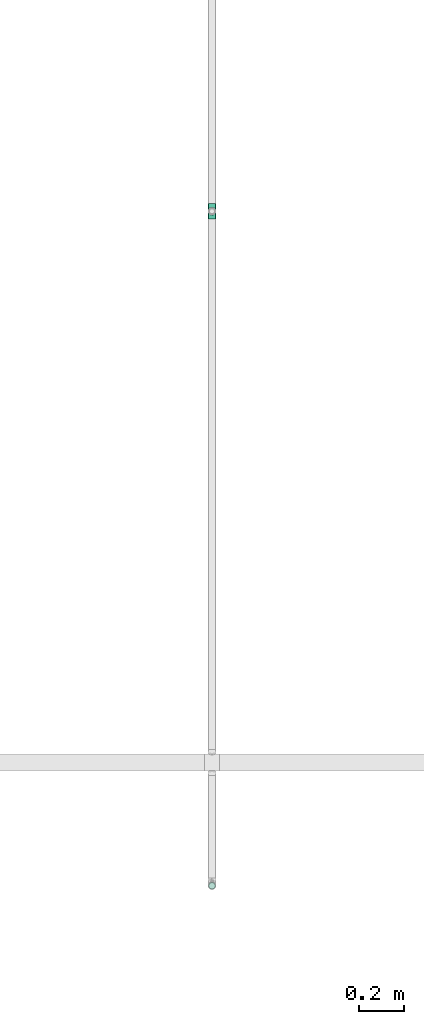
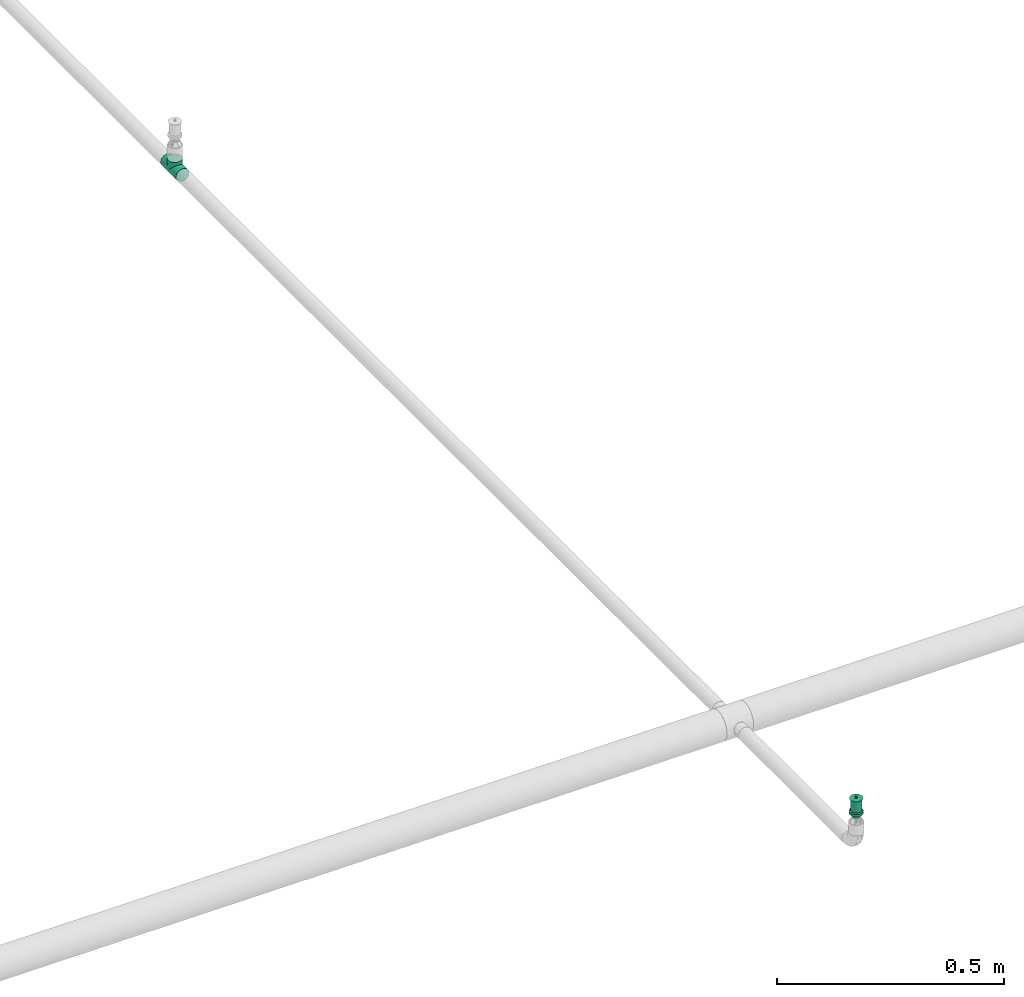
# One storey, part 25 of 31: 1 flow fitting, 1 flow terminal.
"""IFC2X3 building model written with IfcOpenShell, lengths in millimetres."""

import ifcopenshell
import ifcopenshell.guid

model = None  # the IFC model being written
_history = None  # IfcOwnerHistory: only IFC2X3 demands one
_inside = {}  # id of a spatial element -> (the spatial element, [elements in it])
_under = {}  # id of a project, library or spatial element -> (it, [spatial elements below it])
_declared = {}  # id of a project -> (the project, [libraries it declares])
_typed = {}  # id of a type object -> (the type object, [elements of that type])
_made_of = {}  # id of a material, layer set ... -> (it, [elements and type objects made of it])


def new_model(schema):
    """Start an empty IFC model of exactly this schema.

    Asked for "IFC4X3", IfcOpenShell would pick the latest addendum, in which some entities
    have other attributes; the version numbers below select the first issue.
    IFC2X3 requires an IfcOwnerHistory on every rooted entity: one is made here for all.
    """
    global model, _history
    if schema == "IFC4X3":
        model = ifcopenshell.file(schema_version=(4, 3, 0, 0))
    else:
        model = ifcopenshell.file(schema=schema)
    _inside.clear()
    _under.clear()
    _declared.clear()
    _typed.clear()
    _made_of.clear()
    _history = None
    if model.schema == "IFC2X3":
        org = make("IfcOrganization", Name="unknown")
        user = make(
            "IfcPersonAndOrganization",
            ThePerson=make("IfcPerson", FamilyName="unknown"),
            TheOrganization=org,
        )
        app = make(
            "IfcApplication",
            ApplicationDeveloper=org,
            Version="unknown",
            ApplicationFullName="unknown",
            ApplicationIdentifier="unknown",
        )
        _history = make(
            "IfcOwnerHistory",
            OwningUser=user,
            OwningApplication=app,
            ChangeAction="ADDED",
            CreationDate=0,
        )
    return model


def make(cls, **values):
    """One entity of the class cls with the attributes given. An attribute that is None is left unset."""
    return model.create_entity(
        cls, **{name: value for name, value in values.items() if value is not None}
    )


def entity(cls, *values):
    """Any entity or typed value of the class cls, its attributes in the order of the schema. None: left unset."""
    e = model.create_entity(cls)
    for i, value in enumerate(values):
        if value is not None:
            e[i] = value
    return e


def rooted(cls, **values):
    """An entity with a GlobalId (a new one), such as an element, a storey or a relation."""
    return make(cls, GlobalId=ifcopenshell.guid.new(), OwnerHistory=_history, **values)


def si_unit(unit_type, name, prefix=None):
    """IfcSIUnit, for example si_unit("LENGTHUNIT", "METRE", prefix="MILLI")."""
    return make("IfcSIUnit", UnitType=unit_type, Prefix=prefix, Name=name)


def converted_unit(unit_type, name, factor, base, dimensions=None, offset=None):
    """IfcConversionBasedUnit, such as the inch: factor (a typed value) times the base unit."""
    return make(
        "IfcConversionBasedUnit"
        if offset is None
        else "IfcConversionBasedUnitWithOffset",
        ConversionOffset=offset,
        Dimensions=None
        if dimensions is None
        else entity("IfcDimensionalExponents", *dimensions),
        UnitType=unit_type,
        Name=name,
        ConversionFactor=make(
            "IfcMeasureWithUnit", ValueComponent=factor, UnitComponent=base
        ),
    )


def derived_unit(unit_type, elements):
    """IfcDerivedUnit: a product of units, each with its exponent."""
    return make(
        "IfcDerivedUnit",
        Elements=[
            make("IfcDerivedUnitElement", Unit=unit, Exponent=power)
            for unit, power in elements
        ],
        UnitType=unit_type,
    )


def assignment(units):
    """IfcUnitAssignment: the units of a project."""
    return None if units is None else make("IfcUnitAssignment", Units=units)


def point(xyz):
    """IfcCartesianPoint."""
    return None if xyz is None else make("IfcCartesianPoint", Coordinates=xyz)


def direction(xyz):
    """IfcDirection."""
    return None if xyz is None else make("IfcDirection", DirectionRatios=xyz)


def frame(location, z_axis=None, x_axis=None):
    """IfcAxis2Placement3D, a coordinate frame: its origin and axes. An axis left out is left unset."""
    return make(
        "IfcAxis2Placement3D",
        Location=point(location),
        Axis=direction(z_axis),
        RefDirection=direction(x_axis),
    )


def origin_with_axes():
    """The frame at (0, 0, 0) with the z axis (0, 0, 1) and the x axis (1, 0, 0) written out."""
    return frame((0.0, 0.0, 0.0), z_axis=(0.0, 0.0, 1.0), x_axis=(1.0, 0.0, 0.0))


def place(relative_to, where):
    """IfcLocalPlacement: puts the frame where relative to a parent placement (None: the world)."""
    return make(
        "IfcLocalPlacement", PlacementRelTo=relative_to, RelativePlacement=where
    )


def context(
    kind, dimensions, precision=None, world=None, true_north=None, identifier=None
):
    """IfcGeometricRepresentationContext, for example the 3D "Model" context."""
    return make(
        "IfcGeometricRepresentationContext",
        ContextIdentifier=identifier,
        ContextType=kind,
        CoordinateSpaceDimension=dimensions,
        Precision=precision,
        WorldCoordinateSystem=world,
        TrueNorth=true_north,
    )


def subcontext(parent, identifier, kind, view, scale=None):
    """IfcGeometricRepresentationSubContext, for example "Body" below "Model"."""
    return make(
        "IfcGeometricRepresentationSubContext",
        ContextIdentifier=identifier,
        ContextType=kind,
        ParentContext=parent,
        TargetScale=scale,
        TargetView=view,
    )


def project(units=None, contexts=None):
    """IfcProject with its units and contexts."""
    return rooted(
        "IfcProject",
        Name="project",
        RepresentationContexts=contexts,
        UnitsInContext=assignment(units),
    )


def spatial(cls, under=None, at=None, **own):
    """A site, building, storey or space (cls), placed at a placement, below another one or the project."""
    s = rooted(cls, ObjectPlacement=at, **own)
    if under is not None:
        _under.setdefault(under.id(), (under, []))[1].append(s)
    return s


def faces_of(points, faces, orient=None, outer=None):
    """IfcFace entities. A face is a list of loops; a loop is a list of indices into points, from 0.

    orient and outer hold one flag for each loop. By default every Orientation is true, the
    first loop of a face is its IfcFaceOuterBound and the others are IfcFaceBound.
    """
    made = []
    for i, loops in enumerate(faces):
        bounds = []
        for j, loop in enumerate(loops):
            is_outer = j == 0 if outer is None else outer[i][j]
            bounds.append(
                make(
                    "IfcFaceOuterBound" if is_outer else "IfcFaceBound",
                    Bound=make("IfcPolyLoop", Polygon=[points[k] for k in loop]),
                    Orientation=True if orient is None else orient[i][j],
                )
            )
        made.append(make("IfcFace", Bounds=bounds))
    return made


def open_shell(faces, orient=None, outer=None):
    """The faces of one IfcOpenShell. surface_model builds it on its shared points."""
    return ("IfcOpenShell", faces, orient, outer)


def surface_model(cls, points, shells):
    """IfcFaceBasedSurfaceModel or IfcShellBasedSurfaceModel (cls): surfaces that need not close."""
    shared = [point(p) for p in points]
    made = [make(c, CfsFaces=faces_of(shared, fs, o, b)) for c, fs, o, b in shells]
    if cls == "IfcFaceBasedSurfaceModel":
        return make(cls, FbsmFaces=made)
    return make(cls, SbsmBoundary=made)


def shape(context_of_items, identifier, shape_type, items):
    """IfcShapeRepresentation: the items that make up one representation, for example the "Body"."""
    return make(
        "IfcShapeRepresentation",
        ContextOfItems=context_of_items,
        RepresentationIdentifier=identifier,
        RepresentationType=shape_type,
        Items=items,
    )


def source(mapping_origin, context_of_items, identifier, shape_type, items):
    """IfcRepresentationMap: a shape defined once, which mapped items show again and again."""
    return make(
        "IfcRepresentationMap",
        MappingOrigin=mapping_origin,
        MappedRepresentation=shape(context_of_items, identifier, shape_type, items),
    )


def transform(
    local_origin,
    x_axis=None,
    y_axis=None,
    z_axis=None,
    scale=None,
    scale2=None,
    scale3=None,
    uniform=True,
):
    """IfcCartesianTransformationOperator3D, or its non-uniform kind. x_axis, y_axis, z_axis: its Axis1, 2, 3."""
    if uniform:
        return make(
            "IfcCartesianTransformationOperator3D",
            Axis1=direction(x_axis),
            Axis2=direction(y_axis),
            LocalOrigin=point(local_origin),
            Scale=scale,
            Axis3=direction(z_axis),
        )
    return make(
        "IfcCartesianTransformationOperator3DnonUniform",
        Axis1=direction(x_axis),
        Axis2=direction(y_axis),
        LocalOrigin=point(local_origin),
        Scale=scale,
        Axis3=direction(z_axis),
        Scale2=scale2,
        Scale3=scale3,
    )


def mapped(mapping_source, mapping_target):
    """IfcMappedItem: shows the shape of a source again, moved by a transform."""
    return make(
        "IfcMappedItem", MappingSource=mapping_source, MappingTarget=mapping_target
    )


def made_of(thing, what):
    """Note that an element or type object is made of a material, layer set ...; save() writes the relation."""
    if what is not None:
        _made_of.setdefault(what.id(), (what, []))[1].append(thing)
    return thing


def type_object(cls, material=None, **own):
    """A type object (cls), such as IfcWallType, which elements share."""
    return made_of(rooted(cls, **own), material)


def element(
    cls,
    number,
    at=None,
    inside=None,
    cuts=None,
    type_object=None,
    material=None,
    context=None,
    identifier="Body",
    shape_type=None,
    held_by="IfcProductDefinitionShape",
    body=None,
    shapes=None,
    **own,
):
    """One element of the class cls, such as IfcWall. Its Tag is "e" and its number.

    at: its placement. inside: the storey or other place that contains it. cuts: it is an
    opening in that element (IfcRelVoidsElement). A single representation is given by context,
    identifier, shape_type and body (its items); several are given by shapes. held_by: the class
    of the entity that holds the representations. save() writes the other relations.
    """
    e = rooted(cls, Tag="e%d" % number, ObjectPlacement=at, **own)
    if body is not None:
        shapes = [shape(context, identifier, shape_type, body)]
    if shapes is not None:
        e.Representation = make(held_by, Representations=shapes)
    if inside is not None:
        _inside.setdefault(inside.id(), (inside, []))[1].append(e)
    if cuts is not None:
        rooted(
            "IfcRelVoidsElement", RelatingBuildingElement=cuts, RelatedOpeningElement=e
        )
    if type_object is not None:
        _typed.setdefault(type_object.id(), (type_object, []))[1].append(e)
    return made_of(e, material)


def aggregate(whole, parts):
    """IfcRelAggregates: a whole, such as a stair, and the parts it consists of."""
    return rooted("IfcRelAggregates", RelatingObject=whole, RelatedObjects=parts)


def save(model, path):
    """Write the relations noted so far, then the file.

    IfcRelAggregates (storeys below a building ...), IfcRelContainedInSpatialStructure (elements
    in a storey), IfcRelDefinesByType, IfcRelAssociatesMaterial and IfcRelDeclares: one each for
    every whole, place, type object, material and project.
    """
    for whole, parts in _under.values():
        aggregate(whole, parts)
    for where, things in _inside.values():
        rooted(
            "IfcRelContainedInSpatialStructure",
            RelatedElements=things,
            RelatingStructure=where,
        )
    for kind, things in _typed.values():
        rooted("IfcRelDefinesByType", RelatedObjects=things, RelatingType=kind)
    for what, things in _made_of.values():
        rooted("IfcRelAssociatesMaterial", RelatedObjects=things, RelatingMaterial=what)
    for by, libraries in _declared.values():
        rooted("IfcRelDeclares", RelatingContext=by, RelatedDefinitions=libraries)
    model.write(path)


model = new_model("IFC2X3")

# Units and contexts
model_context = context("Model", 3, precision=0.01, world=frame((0.0, 4.29681676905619e-09, 0.0)), true_north=direction((4.01073788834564e-13, 1.0)))
plan_context = context("Plan", 3, precision=0.01, world=frame((0.0, 4.29681676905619e-09, 0.0)), true_north=direction((4.01073788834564e-13, 1.0)))
body_context = subcontext(model_context, "Body", "Model", "MODEL_VIEW")
ifc_project = project(units=[converted_unit("PLANEANGLEUNIT", "DEGREE", entity("IfcPositiveLengthMeasure", 0.0174532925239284), si_unit("PLANEANGLEUNIT", "RADIAN"), dimensions=[0, 0, 0, 0, 0, 0, 0]), si_unit("AREAUNIT", "SQUARE_METRE"), si_unit("LENGTHUNIT", "METRE", prefix="MILLI"), si_unit("MASSUNIT", "GRAM", prefix="KILO"), si_unit("POWERUNIT", "WATT"), si_unit("PRESSUREUNIT", "PASCAL", prefix="KILO"), si_unit("FORCEUNIT", "NEWTON", prefix="KILO"), si_unit("ELECTRICVOLTAGEUNIT", "VOLT"), si_unit("ELECTRICCURRENTUNIT", "AMPERE"), si_unit("THERMODYNAMICTEMPERATUREUNIT", "DEGREE_CELSIUS"), si_unit("TIMEUNIT", "SECOND"), si_unit("VOLUMEUNIT", "CUBIC_METRE"), derived_unit("LINEARVELOCITYUNIT", [(si_unit("LENGTHUNIT", "METRE"), 1), (si_unit("TIMEUNIT", "SECOND"), -1)]), derived_unit("VOLUMETRICFLOWRATEUNIT", [(si_unit("VOLUMEUNIT", "CUBIC_METRE"), 1), (si_unit("TIMEUNIT", "SECOND"), -1)]), derived_unit("THERMALTRANSMITTANCEUNIT", [(si_unit("POWERUNIT", "WATT"), 1), (si_unit("THERMODYNAMICTEMPERATUREUNIT", "KELVIN"), -1), (si_unit("AREAUNIT", "SQUARE_METRE"), -1)]), derived_unit("SOUNDPRESSUREUNIT", [(si_unit("PRESSUREUNIT", "PASCAL"), 1)])], contexts=[model_context, plan_context])

# Site, building, storey
site_placement = place(None, frame((0.0, -4.29681676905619e-09, 0.0), z_axis=(0.0, 0.0, 1.0), x_axis=(1.0, 0.0, 0.0)))
site = spatial("IfcSite", under=ifc_project, at=site_placement, CompositionType="ELEMENT")
building_placement = place(site_placement, frame((0.0, 4.29681676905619e-09, 0.0), z_axis=(0.0, 0.0, 1.0), x_axis=(1.0, 0.0, 0.0)))
building = spatial("IfcBuilding", under=site, at=building_placement, Name="mc-building", CompositionType="ELEMENT")
storey_placement = place(building_placement, frame((0.0, 0.0, 200300.0), z_axis=(0.0, 0.0, 1.0), x_axis=(1.0, 0.0, 0.0)))
storey = spatial("IfcBuildingStorey", under=building, at=storey_placement, Name="Nivå C", CompositionType="ELEMENT", Elevation=200300.0)

# Flow fitting
pipe_fitting_type = type_object("IfcPipeFittingType", Name="magi_pipe_fe_tee_centric_90_NOR", PredefinedType="JUNCTION")
shared_shape_1 = source(origin_with_axes(), body_context, "Body", "SurfaceModel", [
    surface_model("IfcShellBasedSurfaceModel", [(-33.8, 4.37404, -16.32415), (-33.8, 0.0, -16.9), (-33.8, 16.32415, -4.37404), (-33.8, 8.45, -14.63583), (-33.8, 11.9501, -11.9501), (-33.8, 14.63583, -8.45), (-33.8, -16.9, 0.0), (-33.8, -11.9501, -11.9501), (-33.8, -14.63583, -8.45), (-33.8, -8.45, -14.63583), (-33.8, -4.37404, -16.32415), (-33.8, -16.32415, -4.37404), (-33.8, 14.63583, 8.45), (-33.8, 16.32415, 4.37404), (-33.8, -8.45, 14.63583), (-33.8, 8.45, 14.63583), (-33.8, 11.9501, 11.9501), (-33.8, 4.37404, 16.32415), (-33.8, 0.0, 16.9), (-33.8, -11.9501, 11.9501), (-33.8, -14.63583, 8.45), (-33.8, -16.32415, 4.37404), (-33.8, -4.37404, 16.32415), (-33.8, 16.9, 0.0), (33.8, 4.37404, -16.32415), (33.8, -16.9, 0.0), (33.8, 0.0, -16.9), (33.8, 14.63583, -8.45), (33.8, 8.45, -14.63583), (33.8, 16.32415, -4.37404), (33.8, 11.9501, -11.9501), (33.8, -16.32415, 4.37404), (33.8, -8.45, -14.63583), (33.8, -4.37404, -16.32415), (33.8, -11.9501, -11.9501), (33.8, -14.63583, -8.45), (33.8, -16.32415, -4.37404), (33.8, 16.32415, 4.37404), (33.8, 8.45, 14.63583), (33.8, 14.63583, 8.45), (33.8, 11.9501, 11.9501), (33.8, -8.45, 14.63583), (33.8, 4.37404, 16.32415), (33.8, -14.63583, 8.45), (33.8, -11.9501, 11.9501), (33.8, 0.0, 16.9), (33.8, -4.37404, 16.32415), (33.8, 16.9, 0.0), (16.28698, -16.28698, 4.51047), (16.9, -16.9, 0.0), (14.62704, -14.62704, 8.4652), (9.47213, -9.47213, 13.99602), (12.26343, -12.26343, 11.62834), (-16.9, -16.9, 0.0), (-16.28698, -16.28698, 4.51047), (-14.62704, -14.62704, 8.4652), (-12.26343, -12.26343, 11.62834), (-9.47213, -9.47213, 13.99602), (-6.42894, -6.42894, 15.62942), (6.42894, -6.42894, 15.62942), (3.24522, -3.24522, 16.58549), (0.0, 0.0, 16.9), (-3.24522, -3.24522, 16.58549), (3.24522, -3.24522, -16.58549), (0.0, 0.0, -16.9), (-3.24522, -3.24522, -16.58549), (-6.42894, -6.42894, -15.62942), (6.42894, -6.42894, -15.62942), (9.47213, -9.47213, -13.99602), (12.26343, -12.26343, -11.62834), (14.62704, -14.62704, -8.4652), (16.28698, -16.28698, -4.51047), (-9.47213, -9.47213, -13.99602), (-12.26343, -12.26343, -11.62834), (-16.28698, -16.28698, -4.51047), (-14.62704, -14.62704, -8.4652), (4.37404, -25.35, -16.32415), (-16.9, -25.35, 0.0), (0.0, -25.35, -16.9), (14.63583, -25.35, -8.45), (8.45, -25.35, -14.63583), (16.32415, -25.35, -4.37404), (11.9501, -25.35, -11.9501), (-11.9501, -25.35, -11.9501), (-8.45, -25.35, -14.63583), (-4.37404, -25.35, -16.32415), (-14.63583, -25.35, -8.45), (-16.32415, -25.35, -4.37404), (16.9, -25.35, 0.0), (8.45, -25.35, 14.63583), (16.32415, -25.35, 4.37404), (14.63583, -25.35, 8.45), (-8.45, -25.35, 14.63583), (11.9501, -25.35, 11.9501), (4.37404, -25.35, 16.32415), (-16.32415, -25.35, 4.37404), (-11.9501, -25.35, 11.9501), (-14.63583, -25.35, 8.45), (0.0, -25.35, 16.9), (-4.37404, -25.35, 16.32415)], [open_shell([[[0, 1, 2]], [[3, 0, 4]], [[0, 2, 5]], [[4, 0, 5]], [[6, 2, 1]], [[7, 8, 9]], [[1, 10, 9]], [[11, 6, 8]], [[1, 9, 8]], [[1, 8, 6]], [[6, 12, 2]], [[12, 13, 2]], [[14, 12, 6]], [[12, 14, 15]], [[16, 12, 15]], [[17, 15, 18]], [[19, 14, 20]], [[21, 20, 14]], [[22, 18, 14]], [[14, 6, 21]], [[14, 18, 15]], [[23, 2, 13]], [[24, 25, 26]], [[27, 24, 28]], [[27, 29, 24]], [[27, 28, 30]], [[31, 25, 24]], [[26, 32, 33]], [[26, 34, 32]], [[35, 25, 36]], [[35, 34, 26]], [[25, 35, 26]], [[24, 29, 31]], [[29, 37, 38]], [[38, 37, 39]], [[38, 31, 29]], [[38, 39, 40]], [[41, 38, 42]], [[43, 41, 44]], [[41, 43, 31]], [[41, 45, 46]], [[41, 31, 38]], [[42, 45, 41]], [[29, 47, 37]], [[31, 43, 48]], [[25, 31, 49]], [[49, 31, 48]], [[43, 50, 48]], [[44, 41, 51]], [[50, 43, 52]], [[51, 52, 44]], [[52, 43, 44]], [[53, 54, 21]], [[53, 21, 6]], [[21, 54, 20]], [[54, 55, 20]], [[56, 57, 19]], [[19, 20, 56]], [[19, 57, 14]], [[56, 20, 55]], [[14, 57, 58]], [[51, 41, 59]], [[60, 45, 61]], [[59, 46, 60]], [[46, 59, 41]], [[60, 46, 45]], [[61, 45, 42]], [[39, 37, 13]], [[16, 38, 40]], [[12, 40, 39]], [[42, 38, 15]], [[23, 37, 47]], [[62, 61, 18]], [[62, 22, 58]], [[22, 62, 18]], [[58, 22, 14]], [[61, 17, 18]], [[42, 17, 61]], [[15, 17, 42]], [[15, 38, 16]], [[12, 16, 40]], [[13, 12, 39]], [[37, 23, 13]], [[5, 27, 30]], [[23, 47, 29]], [[30, 28, 3]], [[27, 2, 29]], [[26, 33, 63]], [[26, 64, 24]], [[64, 26, 63]], [[28, 24, 0]], [[64, 0, 24]], [[4, 30, 3]], [[2, 27, 5]], [[5, 30, 4]], [[2, 23, 29]], [[65, 66, 10]], [[1, 0, 64]], [[1, 65, 10]], [[66, 9, 10]], [[0, 3, 28]], [[1, 64, 65]], [[63, 33, 67]], [[32, 34, 68]], [[69, 68, 34]], [[35, 70, 69]], [[69, 34, 35]], [[32, 68, 67]], [[36, 25, 49]], [[36, 71, 35]], [[71, 36, 49]], [[35, 71, 70]], [[72, 9, 66]], [[72, 7, 9]], [[7, 72, 73]], [[7, 73, 8]], [[74, 53, 11]], [[75, 74, 8]], [[74, 11, 8]], [[11, 53, 6]], [[75, 8, 73]], [[32, 67, 33]], [[76, 77, 78]], [[79, 76, 80]], [[79, 81, 76]], [[79, 80, 82]], [[77, 76, 81]], [[78, 83, 84]], [[84, 85, 78]], [[86, 77, 87]], [[83, 78, 86]], [[77, 86, 78]], [[81, 88, 77]], [[89, 88, 90]], [[89, 90, 91]], [[92, 77, 89]], [[89, 91, 93]], [[92, 89, 94]], [[95, 96, 97]], [[96, 95, 92]], [[92, 98, 99]], [[95, 77, 92]], [[94, 98, 92]], [[89, 77, 88]], [[77, 95, 53]], [[54, 53, 95]], [[97, 96, 56]], [[96, 92, 57]], [[95, 97, 54]], [[58, 92, 99]], [[55, 54, 97]], [[56, 55, 97]], [[58, 57, 92]], [[98, 61, 62]], [[58, 99, 62]], [[56, 96, 57]], [[62, 99, 98]], [[94, 60, 98]], [[89, 59, 94]], [[91, 90, 48]], [[52, 93, 91]], [[93, 51, 89]], [[49, 90, 88]], [[59, 60, 94]], [[51, 59, 89]], [[49, 48, 90]], [[50, 52, 91]], [[48, 50, 91]], [[51, 93, 52]], [[98, 60, 61]], [[88, 81, 49]], [[71, 49, 81]], [[79, 82, 69]], [[82, 80, 68]], [[81, 79, 71]], [[67, 80, 76]], [[70, 71, 79]], [[69, 70, 79]], [[67, 68, 80]], [[78, 64, 63]], [[67, 76, 63]], [[69, 82, 68]], [[63, 76, 78]], [[85, 65, 78]], [[84, 66, 85]], [[86, 87, 74]], [[86, 73, 83]], [[72, 84, 83]], [[53, 87, 77]], [[66, 65, 85]], [[72, 66, 84]], [[53, 74, 87]], [[75, 73, 86]], [[74, 75, 86]], [[72, 83, 73]], [[78, 65, 64]]])]),
])
flow_fitting_placement = place(storey_placement, frame((611500.0, 400928.19532, 2900.0), z_axis=(-1.0, 0.0, 0.0), x_axis=(0.0, 1.0, 0.0)))
element("IfcFlowFitting", 1, at=flow_fitting_placement, inside=storey, type_object=pipe_fitting_type, Name="magi_pipe_fe_tee_centric_90_NOR", context=body_context, shape_type="MappedRepresentation", body=[
    mapped(shared_shape_1, transform((0.0, 0.0, 0.0), scale=1.0)),
])

# Flow terminal
fire_suppression_terminal_type = type_object("IfcFireSuppressionTerminalType", Name="68DGR-STD-STÅENDE", PredefinedType="NOTDEFINED")
shared_shape_2 = source(origin_with_axes(), body_context, "Body", "SurfaceModel", [
    surface_model("IfcShellBasedSurfaceModel", [(12.55704, 3.36465, 21.14766), (13.0, 0.0, 21.14766), (12.55704, -3.36465, 21.14766), (-12.55704, -3.36465, 21.14766), (-11.25833, -6.5, 21.14766), (-11.25833, -6.5, 51.0), (3.36465, -12.55704, 51.0), (3.36465, -12.55704, 21.14766), (6.5, -11.25833, 21.14766), (9.19239, -9.19239, 21.14766), (11.25833, -6.5, 21.14766), (9.19239, -9.19239, 51.0), (6.5, -11.25833, 51.0), (11.25833, -6.5, 51.0), (12.55704, -3.36465, 51.0), (13.0, 0.0, 51.0), (9.19239, 9.19239, 51.0), (11.25833, 6.5, 21.14766), (9.19239, 9.19239, 21.14766), (11.25833, 6.5, 51.0), (12.55704, 3.36465, 51.0), (6.5, 11.25833, 51.0), (6.5, 11.25833, 21.14766), (3.36465, 12.55704, 21.14766), (3.36465, 12.55704, 51.0), (-11.25833, 6.5, 51.0), (-11.25833, 6.5, 21.14766), (-12.55704, 3.36465, 21.14766), (0.0, -2.5, 51.0), (-2.5, 0.0, 51.0), (0.0, 2.5, 51.0), (2.5, 0.0, 51.0), (11.31371, 11.31371, 53.0), (-11.31371, 11.31371, 53.0), (-11.31371, -11.31371, 53.0), (11.31371, -11.31371, 53.0), (1.62635, 1.62635, 51.0), (2.16506, 1.25, 51.0), (1.99186, 1.15, 51.0), (-1.76777, 1.76777, 51.0), (-1.25, 2.16506, 51.0), (-1.62635, 1.62635, 51.0), (1.99186, -1.15, 51.0), (2.16506, -1.25, 51.0), (1.62635, -1.62635, 51.0), (-1.62635, -1.62635, 51.0), (-1.25, -2.16506, 51.0), (-1.76777, -1.76777, 51.0), (0.0, 7.3, 0.0), (1.94114, 7.24444, 0.0), (1.88938, 7.05126, 0.0), (5.16188, 5.16188, 0.0), (6.49519, 3.75, 0.0), (6.32199, 3.65, 0.0), (-5.3033, 5.3033, 0.0), (-3.75, 6.49519, 0.0), (-5.16188, 5.16188, 0.0), (6.32199, -3.65, 0.0), (6.49519, -3.75, 0.0), (5.16188, -5.16188, 0.0), (1.88938, -7.05126, 0.0), (1.94114, -7.24444, 0.0), (0.0, -7.3, 0.0), (-5.16188, -5.16188, 0.0), (-3.75, -6.49519, 0.0), (-5.3033, -5.3033, 0.0), (-3.36465, 12.55704, 51.0), (-6.5, 11.25833, 51.0), (0.0, 13.0, 51.0), (-9.19239, 9.19239, 51.0), (0.0, -13.0, 51.0), (-9.19239, -9.19239, 51.0), (-12.55704, -3.36465, 51.0), (-6.5, -11.25833, 51.0), (-3.36465, -12.55704, 51.0), (-7.5, 0.0, -0.1), (-7.24444, 1.94114, 0.1), (-7.24444, 1.94114, -0.1), (-6.49519, 3.75, 0.1), (-6.49519, 3.75, -0.1), (-3.75, 6.49519, -0.1), (-5.3033, 5.3033, -0.1), (-3.75, 6.49519, 0.1), (-5.3033, 5.3033, 0.1), (-1.94114, 7.24444, -0.1), (-1.94114, 7.24444, 0.1), (-7.5, 0.0, 0.1), (0.0, 7.5, 0.1), (0.0, 7.5, -0.1), (1.94114, 7.24444, 0.1), (1.94114, 7.24444, -0.1), (3.75, 6.49519, 0.1), (3.75, 6.49519, -0.1), (6.49519, 3.75, -0.1), (5.3033, 5.3033, -0.1), (6.49519, 3.75, 0.1), (5.3033, 5.3033, 0.1), (7.24444, 1.94114, -0.1), (7.24444, 1.94114, 0.1), (7.5, 0.0, 0.1), (7.5, 0.0, -0.1), (-7.24444, -1.94114, 0.1), (7.24444, -1.94114, 0.1), (5.3033, -5.3033, 0.1), (6.49519, -3.75, 0.1), (-6.49519, -3.75, 0.1), (0.0, -7.5, 0.1), (1.94114, -7.24444, 0.1), (3.75, -6.49519, 0.1), (-3.75, -6.49519, 0.1), (-1.94114, -7.24444, 0.1), (-5.3033, -5.3033, 0.1), (0.0, -7.5, -0.1), (-6.49519, -3.75, -0.1), (1.94114, -7.24444, -0.1), (3.75, -6.49519, -0.1), (5.3033, -5.3033, -0.1), (7.24444, -1.94114, -0.1), (6.49519, -3.75, -0.1), (-3.75, -6.49519, -0.1), (-5.3033, -5.3033, -0.1), (-1.94114, -7.24444, -0.1), (-7.24444, -1.94114, -0.1), (16.0, 0.0, 53.0), (0.0, -16.0, 53.0), (-16.0, 0.0, 53.0), (0.0, 16.0, 53.0), (0.64705, 2.41481, 57.0), (0.0, 2.5, 57.0), (1.25, 2.16506, 57.0), (-2.5, 0.0, 57.0), (1.76777, 1.76777, 57.0), (2.41481, 0.64705, 57.0), (2.16506, 1.25, 57.0), (-0.64705, 2.41481, 57.0), (-1.25, 2.16506, 57.0), (-1.76777, 1.76777, 57.0), (-2.16506, 1.25, 57.0), (-2.41481, 0.64705, 57.0), (2.5, 0.0, 57.0), (1.76777, -1.76777, 57.0), (2.16506, -1.25, 57.0), (2.41481, -0.64705, 57.0), (-2.41481, -0.64705, 57.0), (0.64705, -2.41481, 57.0), (1.25, -2.16506, 57.0), (0.0, -2.5, 57.0), (-1.76777, -1.76777, 57.0), (-2.16506, -1.25, 57.0), (-1.25, -2.16506, 57.0), (-0.64705, -2.41481, 57.0), (1.15, -1.99186, 51.0), (1.76777, -1.76777, 51.0), (1.25, -2.16506, 51.0), (0.59528, -2.22163, 51.0), (0.0, -2.3, 51.0), (0.64705, -2.41481, 51.0), (2.22163, -0.59528, 51.0), (2.3, 0.0, 51.0), (2.41481, -0.64705, 51.0), (-0.64705, -2.41481, 51.0), (-0.59528, -2.22163, 51.0), (-1.15, -1.99186, 51.0), (-2.16506, -1.25, 51.0), (-1.99186, -1.15, 51.0), (-2.22163, -0.59528, 51.0), (-2.3, 0.0, 51.0), (-2.41481, -0.64705, 51.0), (2.22163, 0.59528, 51.0), (2.41481, 0.64705, 51.0), (1.76777, 1.76777, 51.0), (1.15, 1.99186, 51.0), (1.25, 2.16506, 51.0), (0.59528, 2.22163, 51.0), (0.0, 2.3, 51.0), (0.64705, 2.41481, 51.0), (-1.99186, 1.15, 51.0), (-2.16506, 1.25, 51.0), (-2.41481, 0.64705, 51.0), (-2.22163, 0.59528, 51.0), (-0.64705, 2.41481, 51.0), (-0.59528, 2.22163, 51.0), (-1.15, 1.99186, 51.0), (-2.22163, 0.59528, 56.8), (-1.99186, 1.15, 56.8), (-1.15, 1.99186, 56.8), (-1.62635, 1.62635, 56.8), (-0.59528, 2.22163, 56.8), (-2.3, 0.0, 56.8), (0.0, 2.3, 56.8), (0.59528, 2.22163, 56.8), (1.15, 1.99186, 56.8), (1.99186, 1.15, 56.8), (1.62635, 1.62635, 56.8), (2.22163, 0.59528, 56.8), (2.3, 0.0, 56.8), (2.22163, -0.59528, 56.8), (1.99186, -1.15, 56.8), (1.62635, -1.62635, 56.8), (1.15, -1.99186, 56.8), (0.59528, -2.22163, 56.8), (0.0, -2.3, 56.8), (-1.99186, -1.15, 56.8), (-2.22163, -0.59528, 56.8), (-1.62635, -1.62635, 56.8), (-0.59528, -2.22163, 56.8), (-1.15, -1.99186, 56.8), (8.0, -13.85641, 13.0), (4.1411, -15.45481, 13.0), (0.0, -16.0, 13.0), (-4.1411, -15.45481, 13.0), (15.45481, -4.1411, 13.0), (13.85641, -8.0, 13.0), (11.31371, -11.31371, 13.0), (-16.0, 0.0, 13.0), (-8.0, -13.85641, 13.0), (-11.31371, -11.31371, 13.0), (-13.85641, -8.0, 13.0), (-15.45481, -4.1411, 13.0), (15.45481, 4.1411, 13.0), (4.1411, 15.45481, 13.0), (13.85641, 8.0, 13.0), (8.0, 13.85641, 13.0), (11.31371, 11.31371, 13.0), (-15.45481, 4.1411, 13.0), (-11.31371, 11.31371, 13.0), (-8.0, 13.85641, 13.0), (-13.85641, 8.0, 13.0), (-4.1411, 15.45481, 13.0), (0.0, 16.0, 13.0), (16.0, 0.0, 13.0), (7.05126, 1.88938, 12.8), (1.88938, 7.05126, 12.8), (3.65, 6.32199, 12.8), (6.32199, 3.65, 12.8), (5.16188, 5.16188, 12.8), (7.3, 0.0, 12.8), (0.0, 7.3, 12.8), (-3.65, 6.32199, 12.8), (-1.88938, 7.05126, 12.8), (-5.16188, 5.16188, 12.8), (-7.05126, 1.88938, 12.8), (-6.32199, 3.65, 12.8), (7.05126, -1.88938, 12.8), (0.0, -7.3, 12.8), (6.32199, -3.65, 12.8), (3.65, -6.32199, 12.8), (5.16188, -5.16188, 12.8), (1.88938, -7.05126, 12.8), (-7.3, 0.0, 12.8), (-6.32199, -3.65, 12.8), (-7.05126, -1.88938, 12.8), (-1.88938, -7.05126, 12.8), (-5.16188, -5.16188, 12.8), (-3.65, -6.32199, 12.8), (-7.05126, 1.88938, 0.0), (-7.3, 0.0, 0.0), (-6.32199, 3.65, 0.0), (-3.65, 6.32199, 0.0), (-1.88938, 7.05126, 0.0), (3.65, 6.32199, 0.0), (7.05126, 1.88938, 0.0), (7.3, 0.0, 0.0), (3.75, 6.49519, 13.0), (1.94114, 7.24444, 13.0), (7.5, 0.0, 13.0), (5.3033, 5.3033, 13.0), (7.24444, 1.94114, 13.0), (6.49519, 3.75, 13.0), (-5.3033, 5.3033, 13.0), (-7.24444, -1.94114, 13.0), (-1.94114, 7.24444, 13.0), (-3.75, 6.49519, 13.0), (0.0, 7.5, 13.0), (-6.49519, 3.75, 13.0), (-7.24444, 1.94114, 13.0), (7.24444, -1.94114, 13.0), (5.3033, -5.3033, 13.0), (6.49519, -3.75, 13.0), (-6.49519, -3.75, 13.0), (0.0, -7.5, 13.0), (1.94114, -7.24444, 13.0), (3.75, -6.49519, 13.0), (-7.5, 0.0, 13.0), (-3.75, -6.49519, 13.0), (-1.94114, -7.24444, 13.0), (-5.3033, -5.3033, 13.0), (3.65, -6.32199, 0.0), (5.3033, -5.3033, 0.0), (3.75, -6.49519, 0.0), (0.0, -7.5, 0.0), (7.05126, -1.88938, 0.0), (7.24444, -1.94114, 0.0), (7.5, 0.0, 0.0), (-1.94114, -7.24444, 0.0), (-1.88938, -7.05126, 0.0), (-3.65, -6.32199, 0.0), (-6.49519, -3.75, 0.0), (-6.32199, -3.65, 0.0), (-7.05126, -1.88938, 0.0), (-7.24444, -1.94114, 0.0), (-7.5, 0.0, 0.0), (7.24444, 1.94114, 0.0), (5.3033, 5.3033, 0.0), (3.75, 6.49519, 0.0), (0.0, 7.5, 0.0), (-6.49519, 3.75, 0.0), (-7.24444, 1.94114, 0.0), (-1.94114, 7.24444, 0.0), (-12.55704, 3.36465, 51.0), (-13.0, 0.0, 51.0), (0.0, -13.0, 21.14766), (-3.36465, -12.55704, 21.14766), (-6.5, -11.25833, 21.14766), (-9.19239, -9.19239, 21.14766), (-13.0, 0.0, 21.14766), (-9.19239, 9.19239, 21.14766), (-6.5, 11.25833, 21.14766), (-3.36465, 12.55704, 21.14766), (0.0, 13.0, 21.14766), (11.31371, 11.31371, 19.0), (8.0, 13.85641, 19.0), (4.1411, 15.45481, 19.0), (-8.0, 13.85641, 19.0), (16.0, 0.0, 19.0), (15.45481, 4.1411, 19.0), (13.85641, 8.0, 19.0), (-4.1411, 15.45481, 19.0), (0.0, 16.0, 19.0), (-11.31371, 11.31371, 19.0), (-13.85641, 8.0, 19.0), (-15.45481, 4.1411, 19.0), (15.45481, -4.1411, 19.0), (11.31371, -11.31371, 19.0), (13.85641, -8.0, 19.0), (-16.0, 0.0, 19.0), (0.0, -16.0, 19.0), (4.1411, -15.45481, 19.0), (8.0, -13.85641, 19.0), (-13.85641, -8.0, 19.0), (-11.31371, -11.31371, 19.0), (-15.45481, -4.1411, 19.0), (-8.0, -13.85641, 19.0), (-4.1411, -15.45481, 19.0)], [open_shell([[[0, 1, 2]], [[3, 4, 5]], [[6, 7, 8]], [[9, 10, 11]], [[9, 11, 12]], [[10, 13, 11]], [[14, 13, 2]], [[1, 15, 14]], [[16, 17, 18]], [[0, 19, 20]], [[20, 15, 1]], [[21, 16, 18]], [[22, 23, 24]], [[16, 19, 17]], [[25, 26, 27]], [[28, 29, 30]], [[30, 31, 28]], [[31, 30, 32]], [[33, 30, 29]], [[29, 28, 34]], [[35, 28, 31]], [[36, 37, 38]], [[39, 40, 41]], [[42, 43, 44]], [[45, 46, 47]], [[48, 49, 50]], [[51, 52, 53]], [[54, 55, 56]], [[57, 58, 59]], [[60, 61, 62]], [[63, 64, 65]], [[66, 67, 68]], [[67, 24, 68]], [[69, 25, 67]], [[15, 20, 14]], [[70, 6, 12]], [[5, 71, 72]], [[73, 74, 71]], [[72, 71, 74]], [[75, 76, 77]], [[77, 78, 79]], [[80, 81, 82]], [[83, 81, 79]], [[84, 80, 85]], [[76, 78, 77]], [[75, 86, 76]], [[80, 82, 85]], [[82, 81, 83]], [[79, 78, 83]], [[84, 85, 87]], [[87, 88, 84]], [[88, 89, 90]], [[90, 91, 92]], [[93, 94, 95]], [[96, 94, 92]], [[97, 93, 98]], [[91, 96, 92]], [[90, 89, 91]], [[97, 98, 99]], [[98, 93, 95]], [[94, 96, 95]], [[97, 99, 100]], [[87, 89, 88]], [[91, 89, 99]], [[96, 91, 98]], [[91, 99, 98]], [[95, 96, 98]], [[89, 83, 101]], [[85, 82, 87]], [[83, 87, 82]], [[78, 76, 83]], [[89, 87, 83]], [[76, 101, 83]], [[102, 99, 89]], [[103, 104, 102]], [[89, 105, 103]], [[103, 106, 107]], [[108, 103, 107]], [[106, 103, 105]], [[89, 101, 105]], [[101, 76, 86]], [[109, 110, 111]], [[105, 111, 110]], [[106, 105, 110]], [[103, 102, 89]], [[112, 113, 114]], [[115, 114, 116]], [[117, 118, 116]], [[113, 116, 114]], [[116, 113, 117]], [[119, 120, 121]], [[113, 121, 120]], [[121, 113, 112]], [[113, 122, 117]], [[75, 77, 122]], [[100, 117, 122]], [[100, 81, 97]], [[93, 97, 90]], [[90, 92, 94]], [[93, 90, 94]], [[90, 97, 81]], [[79, 81, 77]], [[77, 81, 122]], [[84, 88, 80]], [[81, 80, 88]], [[81, 88, 90]], [[100, 122, 81]], [[100, 102, 117]], [[117, 104, 118]], [[115, 116, 108]], [[103, 116, 118]], [[114, 115, 107]], [[102, 104, 117]], [[100, 99, 102]], [[115, 108, 107]], [[108, 116, 103]], [[118, 104, 103]], [[114, 107, 106]], [[106, 112, 114]], [[112, 110, 121]], [[121, 109, 119]], [[113, 120, 105]], [[111, 120, 119]], [[122, 113, 101]], [[109, 111, 119]], [[121, 110, 109]], [[122, 101, 86]], [[101, 113, 105]], [[120, 111, 105]], [[122, 86, 75]], [[106, 110, 112]], [[31, 123, 35]], [[35, 124, 28]], [[124, 34, 28]], [[29, 34, 125]], [[33, 32, 126]], [[33, 125, 124]], [[124, 32, 33]], [[124, 35, 123]], [[124, 125, 34]], [[123, 32, 124]], [[29, 125, 33]], [[33, 126, 30]], [[126, 32, 30]], [[31, 32, 123]], [[127, 128, 129]], [[129, 130, 131]], [[132, 131, 130]], [[133, 131, 132]], [[130, 129, 128]], [[134, 135, 128]], [[136, 128, 135]], [[137, 138, 136]], [[128, 136, 130]], [[138, 130, 136]], [[139, 132, 130]], [[140, 141, 142]], [[143, 140, 139]], [[144, 140, 143]], [[145, 140, 144]], [[146, 144, 147]], [[139, 130, 143]], [[143, 148, 144]], [[149, 150, 147]], [[144, 148, 147]], [[146, 147, 150]], [[140, 142, 139]], [[151, 152, 153]], [[154, 151, 153]], [[155, 154, 156]], [[153, 156, 154]], [[28, 155, 156]], [[44, 152, 151]], [[157, 158, 159]], [[31, 159, 158]], [[43, 157, 159]], [[152, 44, 43]], [[157, 43, 42]], [[160, 161, 28]], [[161, 155, 28]], [[162, 161, 160]], [[160, 46, 162]], [[162, 46, 45]], [[47, 163, 164]], [[165, 164, 163]], [[45, 47, 164]], [[166, 165, 167]], [[163, 167, 165]], [[29, 166, 167]], [[168, 169, 31]], [[38, 169, 168]], [[169, 38, 37]], [[170, 37, 36]], [[171, 172, 170]], [[173, 172, 171]], [[174, 175, 173]], [[172, 173, 175]], [[30, 175, 174]], [[170, 36, 171]], [[39, 176, 177]], [[41, 176, 39]], [[178, 177, 176]], [[178, 179, 29]], [[176, 179, 178]], [[179, 166, 29]], [[180, 30, 181]], [[182, 180, 181]], [[182, 41, 40]], [[180, 182, 40]], [[181, 30, 174]], [[31, 158, 168]], [[29, 138, 178]], [[178, 137, 177]], [[40, 39, 135]], [[136, 39, 177]], [[180, 40, 134]], [[138, 137, 178]], [[29, 130, 138]], [[40, 135, 134]], [[135, 39, 136]], [[177, 137, 136]], [[180, 134, 128]], [[128, 30, 180]], [[30, 127, 175]], [[175, 129, 172]], [[37, 170, 133]], [[131, 170, 172]], [[169, 37, 132]], [[129, 131, 172]], [[175, 127, 129]], [[169, 132, 139]], [[132, 37, 133]], [[170, 131, 133]], [[169, 139, 31]], [[128, 127, 30]], [[179, 183, 166]], [[176, 184, 179]], [[185, 41, 182]], [[176, 41, 186]], [[187, 182, 181]], [[179, 184, 183]], [[183, 188, 166]], [[187, 185, 182]], [[186, 41, 185]], [[186, 184, 176]], [[189, 187, 181]], [[181, 174, 189]], [[173, 190, 174]], [[171, 191, 173]], [[192, 36, 38]], [[171, 36, 193]], [[194, 38, 168]], [[171, 193, 191]], [[191, 190, 173]], [[195, 194, 168]], [[192, 38, 194]], [[192, 193, 36]], [[158, 195, 168]], [[174, 190, 189]], [[31, 142, 159]], [[159, 141, 43]], [[153, 152, 145]], [[140, 152, 43]], [[156, 153, 144]], [[142, 141, 159]], [[31, 139, 142]], [[153, 145, 144]], [[145, 152, 140]], [[43, 141, 140]], [[156, 144, 146]], [[146, 28, 156]], [[28, 150, 160]], [[160, 149, 46]], [[163, 47, 148]], [[147, 47, 46]], [[167, 163, 143]], [[149, 147, 46]], [[160, 150, 149]], [[167, 143, 130]], [[143, 163, 148]], [[47, 147, 148]], [[167, 130, 29]], [[146, 150, 28]], [[190, 191, 193]], [[190, 193, 195]], [[194, 195, 193]], [[194, 193, 192]], [[190, 195, 186]], [[189, 185, 187]], [[185, 189, 186]], [[186, 183, 184]], [[186, 189, 190]], [[186, 196, 183]], [[186, 195, 196]], [[196, 197, 198]], [[196, 198, 199]], [[199, 200, 201]], [[199, 201, 196]], [[196, 201, 202]], [[188, 202, 203]], [[183, 202, 188]], [[204, 205, 206]], [[205, 204, 202]], [[201, 205, 202]], [[202, 183, 196]], [[157, 196, 158]], [[42, 197, 157]], [[199, 44, 151]], [[42, 44, 198]], [[200, 151, 154]], [[157, 197, 196]], [[196, 195, 158]], [[200, 199, 151]], [[198, 44, 199]], [[198, 197, 42]], [[201, 200, 154]], [[154, 155, 201]], [[161, 205, 155]], [[162, 206, 161]], [[202, 45, 164]], [[162, 45, 204]], [[203, 164, 165]], [[162, 204, 206]], [[206, 205, 161]], [[188, 203, 165]], [[202, 164, 203]], [[202, 204, 45]], [[166, 188, 165]], [[155, 205, 201]], [[207, 208, 209]], [[207, 209, 210]], [[211, 212, 213]], [[213, 207, 214]], [[211, 213, 214]], [[215, 216, 210]], [[217, 210, 216]], [[217, 218, 210]], [[218, 207, 210]], [[218, 214, 207]], [[214, 219, 211]], [[220, 219, 214]], [[221, 219, 220]], [[220, 222, 223]], [[221, 220, 223]], [[214, 224, 220]], [[225, 226, 227]], [[224, 227, 226]], [[228, 229, 226]], [[220, 224, 226]], [[226, 229, 220]], [[219, 230, 211]], [[231, 232, 233]], [[234, 233, 235]], [[231, 236, 232]], [[231, 233, 234]], [[232, 236, 237]], [[237, 238, 239]], [[238, 237, 240]], [[240, 241, 242]], [[240, 237, 236]], [[236, 241, 240]], [[236, 243, 241]], [[244, 243, 245]], [[246, 245, 247]], [[246, 248, 244]], [[246, 244, 245]], [[243, 244, 249]], [[249, 250, 251]], [[250, 249, 252]], [[253, 252, 254]], [[252, 253, 250]], [[249, 244, 252]], [[243, 249, 241]], [[255, 241, 256]], [[257, 242, 255]], [[238, 56, 258]], [[257, 56, 240]], [[239, 258, 259]], [[255, 242, 241]], [[241, 249, 256]], [[239, 238, 258]], [[240, 56, 238]], [[240, 242, 257]], [[237, 239, 259]], [[259, 48, 237]], [[50, 232, 48]], [[260, 233, 50]], [[234, 51, 53]], [[260, 51, 235]], [[231, 53, 261]], [[260, 235, 233]], [[233, 232, 50]], [[236, 231, 261]], [[234, 53, 231]], [[234, 235, 51]], [[262, 236, 261]], [[48, 232, 237]], [[263, 264, 265]], [[266, 263, 267]], [[263, 265, 267]], [[268, 266, 267]], [[264, 269, 270]], [[271, 272, 273]], [[269, 273, 272]], [[274, 275, 269]], [[264, 273, 269]], [[275, 270, 269]], [[276, 265, 264]], [[277, 278, 276]], [[264, 279, 277]], [[277, 280, 281]], [[282, 277, 281]], [[280, 277, 279]], [[264, 270, 279]], [[270, 275, 283]], [[284, 285, 286]], [[279, 286, 285]], [[280, 279, 285]], [[277, 276, 264]], [[287, 288, 289]], [[60, 287, 289]], [[290, 62, 61]], [[289, 61, 60]], [[59, 288, 287]], [[291, 262, 292]], [[293, 292, 262]], [[58, 291, 292]], [[288, 59, 58]], [[291, 58, 57]], [[294, 295, 290]], [[296, 295, 294]], [[294, 64, 296]], [[64, 63, 296]], [[295, 62, 290]], [[65, 297, 298]], [[299, 298, 297]], [[63, 65, 298]], [[256, 299, 300]], [[297, 300, 299]], [[301, 256, 300]], [[261, 302, 293]], [[53, 302, 261]], [[302, 53, 52]], [[303, 52, 51]], [[260, 304, 303]], [[50, 304, 260]], [[304, 50, 49]], [[305, 49, 48]], [[303, 51, 260]], [[54, 257, 306]], [[56, 257, 54]], [[307, 306, 257]], [[307, 255, 301]], [[257, 255, 307]], [[255, 256, 301]], [[308, 305, 259]], [[258, 308, 259]], [[55, 258, 56]], [[308, 258, 55]], [[259, 305, 48]], [[293, 262, 261]], [[301, 275, 307]], [[307, 274, 306]], [[55, 54, 272]], [[269, 54, 306]], [[308, 55, 271]], [[275, 274, 307]], [[301, 283, 275]], [[55, 272, 271]], [[272, 54, 269]], [[306, 274, 269]], [[308, 271, 273]], [[273, 305, 308]], [[305, 264, 49]], [[49, 263, 304]], [[52, 303, 268]], [[266, 303, 304]], [[302, 52, 267]], [[263, 266, 304]], [[49, 264, 263]], [[302, 267, 265]], [[267, 52, 268]], [[303, 266, 268]], [[302, 265, 293]], [[273, 264, 305]], [[293, 276, 292]], [[292, 278, 58]], [[289, 288, 282]], [[277, 288, 58]], [[61, 289, 281]], [[276, 278, 292]], [[293, 265, 276]], [[289, 282, 281]], [[282, 288, 277]], [[58, 278, 277]], [[61, 281, 280]], [[280, 290, 61]], [[290, 285, 294]], [[294, 284, 64]], [[297, 65, 279]], [[286, 65, 64]], [[300, 297, 270]], [[284, 286, 64]], [[294, 285, 284]], [[300, 270, 283]], [[270, 297, 279]], [[65, 286, 279]], [[300, 283, 301]], [[280, 285, 290]], [[291, 243, 262]], [[57, 245, 291]], [[246, 59, 287]], [[57, 59, 247]], [[248, 287, 60]], [[291, 245, 243]], [[243, 236, 262]], [[248, 246, 287]], [[247, 59, 246]], [[247, 245, 57]], [[244, 248, 60]], [[60, 62, 244]], [[295, 252, 62]], [[296, 254, 295]], [[250, 63, 298]], [[296, 63, 253]], [[251, 298, 299]], [[296, 253, 254]], [[254, 252, 295]], [[249, 251, 299]], [[250, 298, 251]], [[250, 253, 63]], [[256, 249, 299]], [[62, 252, 244]], [[16, 21, 24]], [[20, 16, 24]], [[24, 67, 72]], [[19, 16, 20]], [[24, 72, 20]], [[25, 72, 67]], [[309, 310, 25]], [[11, 13, 14]], [[72, 11, 20]], [[74, 12, 11]], [[12, 74, 70]], [[72, 25, 310]], [[72, 74, 11]], [[11, 14, 20]], [[8, 7, 311]], [[8, 311, 312]], [[2, 10, 9]], [[3, 9, 8]], [[3, 26, 9]], [[313, 314, 312]], [[3, 312, 314]], [[4, 3, 314]], [[3, 8, 312]], [[315, 26, 3]], [[2, 9, 26]], [[0, 2, 26]], [[17, 0, 18]], [[23, 22, 18]], [[0, 23, 18]], [[23, 0, 26]], [[316, 317, 26]], [[26, 315, 27]], [[318, 319, 317]], [[23, 26, 317]], [[23, 317, 319]], [[316, 26, 25]], [[318, 317, 67]], [[69, 317, 316]], [[319, 318, 66]], [[310, 309, 315]], [[27, 315, 309]], [[25, 27, 309]], [[25, 69, 316]], [[317, 69, 67]], [[67, 66, 318]], [[66, 68, 319]], [[22, 21, 18]], [[0, 17, 19]], [[1, 0, 20]], [[68, 24, 23]], [[24, 21, 22]], [[319, 68, 23]], [[1, 14, 2]], [[2, 13, 10]], [[6, 311, 7]], [[6, 8, 12]], [[12, 8, 9]], [[6, 70, 311]], [[313, 312, 74]], [[313, 73, 314]], [[71, 4, 314]], [[315, 3, 72]], [[70, 74, 312]], [[74, 73, 313]], [[73, 71, 314]], [[71, 5, 4]], [[3, 5, 72]], [[72, 310, 315]], [[311, 70, 312]], [[320, 321, 322]], [[320, 322, 323]], [[320, 324, 325]], [[326, 320, 325]], [[324, 320, 323]], [[327, 323, 328]], [[323, 322, 328]], [[329, 330, 323]], [[331, 323, 330]], [[323, 331, 324]], [[331, 332, 324]], [[333, 334, 332]], [[335, 333, 331]], [[336, 337, 338]], [[335, 338, 333]], [[338, 335, 336]], [[339, 340, 341]], [[335, 341, 340]], [[342, 343, 340]], [[335, 340, 343]], [[343, 336, 335]], [[332, 331, 333]], [[214, 331, 224]], [[224, 330, 227]], [[226, 225, 323]], [[329, 225, 227]], [[228, 226, 327]], [[331, 330, 224]], [[214, 335, 331]], [[226, 323, 327]], [[323, 225, 329]], [[227, 330, 329]], [[228, 327, 328]], [[328, 229, 228]], [[229, 322, 220]], [[220, 321, 222]], [[221, 223, 326]], [[320, 223, 222]], [[219, 221, 325]], [[321, 320, 222]], [[220, 322, 321]], [[219, 325, 324]], [[325, 221, 326]], [[223, 320, 326]], [[219, 324, 230]], [[328, 322, 229]], [[230, 332, 211]], [[211, 334, 212]], [[207, 213, 338]], [[333, 213, 212]], [[208, 207, 337]], [[332, 334, 211]], [[230, 324, 332]], [[207, 338, 337]], [[338, 213, 333]], [[212, 334, 333]], [[208, 337, 336]], [[336, 209, 208]], [[209, 343, 210]], [[210, 342, 215]], [[217, 216, 339]], [[340, 216, 215]], [[218, 217, 341]], [[342, 340, 215]], [[210, 343, 342]], [[218, 341, 335]], [[341, 217, 339]], [[216, 340, 339]], [[218, 335, 214]], [[336, 343, 209]]])]),
])
flow_terminal_placement = place(storey_placement, frame((611500.0, 397923.19532, 2972.0), z_axis=(0.0, 0.0, 1.0), x_axis=(-1.0, 0.0, 0.0)))
element("IfcFlowTerminal", 2, at=flow_terminal_placement, inside=storey, type_object=fire_suppression_terminal_type, Name="68DGR-STD-STÅENDE", context=body_context, shape_type="MappedRepresentation", body=[
    mapped(shared_shape_2, transform((0.0, 0.0, 0.0), scale=1.0)),
])

save(model, "model.ifc")
